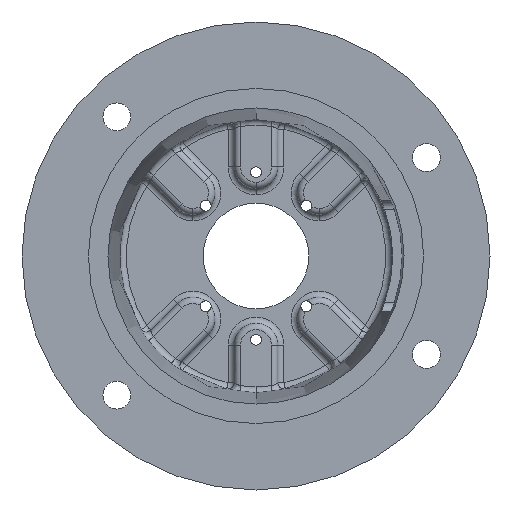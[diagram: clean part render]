
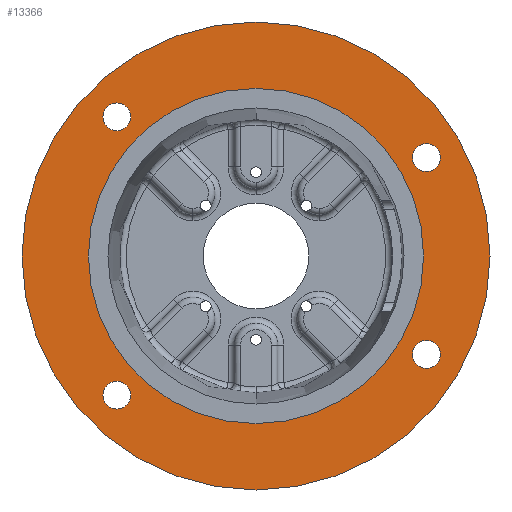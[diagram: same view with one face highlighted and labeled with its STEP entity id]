
A CAD part, front view. The second image highlights one B-rep face of the part: STEP entity #13366.
In plain terms, the highlighted planar face has unit normal (0, -1, 0).
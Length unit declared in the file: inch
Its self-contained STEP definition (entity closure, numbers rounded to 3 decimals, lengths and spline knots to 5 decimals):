
#154 = EDGE_CURVE ( 'NONE', #510, #7772, #4560, .T. ) ;
#190 = DIRECTION ( 'NONE',  ( 0., 0., 1. ) ) ;
#211 = CIRCLE ( 'NONE', #7244, 0.32812 ) ;
#288 = AXIS2_PLACEMENT_3D ( 'NONE', #9600, #3131, #10669 ) ;
#399 = EDGE_CURVE ( 'NONE', #1030, #6710, #3201, .T. ) ;
#510 = VERTEX_POINT ( 'NONE', #3135 ) ;
#594 = DIRECTION ( 'NONE',  ( 0., 0., -1. ) ) ;
#611 = DIRECTION ( 'NONE',  ( 0., -1., 0. ) ) ;
#644 = CARTESIAN_POINT ( 'NONE',  ( 0., 0., 0. ) ) ;
#1030 = VERTEX_POINT ( 'NONE', #1334 ) ;
#1334 = CARTESIAN_POINT ( 'NONE',  ( 0., 0., -3.9385 ) ) ;
#1519 = EDGE_LOOP ( 'NONE', ( #5251, #4275 ) ) ;
#1605 = FACE_BOUND ( 'NONE', #4106, .T. ) ;
#1763 = CIRCLE ( 'NONE', #13353, 0.32812 ) ;
#1845 = ORIENTED_EDGE ( 'NONE', *, *, #154, .F. ) ;
#2109 = EDGE_CURVE ( 'NONE', #7772, #510, #2704, .T. ) ;
#2151 = AXIS2_PLACEMENT_3D ( 'NONE', #12814, #6431, #13893 ) ;
#2222 = VERTEX_POINT ( 'NONE', #12426 ) ;
#2357 = CARTESIAN_POINT ( 'NONE',  ( 0., 0., 5.5 ) ) ;
#2572 = EDGE_LOOP ( 'NONE', ( #12792, #3514 ) ) ;
#2687 = CIRCLE ( 'NONE', #3776, 0.32812 ) ;
#2704 = CIRCLE ( 'NONE', #13082, 0.32812 ) ;
#2916 = CARTESIAN_POINT ( 'NONE',  ( -3.27037, 0., -3.59849 ) ) ;
#3131 = DIRECTION ( 'NONE',  ( 0., -1., 0. ) ) ;
#3135 = CARTESIAN_POINT ( 'NONE',  ( 4.00537, 0., 2.64062 ) ) ;
#3201 = CIRCLE ( 'NONE', #4665, 3.9385 ) ;
#3254 = CIRCLE ( 'NONE', #13927, 5.5 ) ;
#3265 = CIRCLE ( 'NONE', #9024, 0.32812 ) ;
#3342 = DIRECTION ( 'NONE',  ( 0., -1., 0. ) ) ;
#3439 = CARTESIAN_POINT ( 'NONE',  ( 0., 0., 0. ) ) ;
#3514 = ORIENTED_EDGE ( 'NONE', *, *, #4954, .F. ) ;
#3597 = DIRECTION ( 'NONE',  ( 0., -1., 0. ) ) ;
#3682 = CIRCLE ( 'NONE', #288, 3.9385 ) ;
#3776 = AXIS2_PLACEMENT_3D ( 'NONE', #9840, #9801, #9752 ) ;
#3880 = VERTEX_POINT ( 'NONE', #9004 ) ;
#4106 = EDGE_LOOP ( 'NONE', ( #10724, #1845 ) ) ;
#4108 = CARTESIAN_POINT ( 'NONE',  ( -3.27037, 0., -3.27037 ) ) ;
#4176 = FACE_BOUND ( 'NONE', #13281, .T. ) ;
#4275 = ORIENTED_EDGE ( 'NONE', *, *, #9009, .F. ) ;
#4467 = EDGE_CURVE ( 'NONE', #4871, #9307, #2687, .T. ) ;
#4524 = DIRECTION ( 'NONE',  ( 0., 0., -1. ) ) ;
#4560 = CIRCLE ( 'NONE', #7805, 0.32812 ) ;
#4597 = CARTESIAN_POINT ( 'NONE',  ( -3.27037, 0., -2.94224 ) ) ;
#4665 = AXIS2_PLACEMENT_3D ( 'NONE', #644, #611, #594 ) ;
#4871 = VERTEX_POINT ( 'NONE', #9408 ) ;
#4954 = EDGE_CURVE ( 'NONE', #6710, #1030, #3682, .T. ) ;
#5130 = VERTEX_POINT ( 'NONE', #2357 ) ;
#5185 = DIRECTION ( 'NONE',  ( 0., 0., -1. ) ) ;
#5251 = ORIENTED_EDGE ( 'NONE', *, *, #13617, .F. ) ;
#5292 = VERTEX_POINT ( 'NONE', #6878 ) ;
#5375 = ORIENTED_EDGE ( 'NONE', *, *, #10970, .T. ) ;
#5442 = ORIENTED_EDGE ( 'NONE', *, *, #12026, .F. ) ;
#5455 = CARTESIAN_POINT ( 'NONE',  ( 4.00537, 0., 2.3125 ) ) ;
#5566 = DIRECTION ( 'NONE',  ( 0., -1., 0. ) ) ;
#5965 = ORIENTED_EDGE ( 'NONE', *, *, #10192, .F. ) ;
#6028 = CARTESIAN_POINT ( 'NONE',  ( -3.27037, 0., 3.27037 ) ) ;
#6431 = DIRECTION ( 'NONE',  ( 0., -1., 0. ) ) ;
#6524 = DIRECTION ( 'NONE',  ( 0., -1., 0. ) ) ;
#6659 = PLANE ( 'NONE',  #13627 ) ;
#6710 = VERTEX_POINT ( 'NONE', #11365 ) ;
#6816 = EDGE_CURVE ( 'NONE', #9307, #4871, #10865, .T. ) ;
#6878 = CARTESIAN_POINT ( 'NONE',  ( 0., 0., -5.5 ) ) ;
#7027 = FACE_BOUND ( 'NONE', #7130, .T. ) ;
#7118 = DIRECTION ( 'NONE',  ( 0., 0., -1. ) ) ;
#7130 = EDGE_LOOP ( 'NONE', ( #5442, #5965 ) ) ;
#7244 = AXIS2_PLACEMENT_3D ( 'NONE', #6028, #13500, #7118 ) ;
#7604 = CARTESIAN_POINT ( 'NONE',  ( 4.00537, 0., 1.98437 ) ) ;
#7772 = VERTEX_POINT ( 'NONE', #7604 ) ;
#7805 = AXIS2_PLACEMENT_3D ( 'NONE', #5455, #6524, #8961 ) ;
#8314 = ORIENTED_EDGE ( 'NONE', *, *, #12207, .T. ) ;
#8573 = CIRCLE ( 'NONE', #10498, 0.32812 ) ;
#8961 = DIRECTION ( 'NONE',  ( 0., 0., -1. ) ) ;
#9004 = CARTESIAN_POINT ( 'NONE',  ( -3.27037, 0., 2.94224 ) ) ;
#9009 = EDGE_CURVE ( 'NONE', #2222, #3880, #211, .T. ) ;
#9024 = AXIS2_PLACEMENT_3D ( 'NONE', #4108, #11589, #5185 ) ;
#9084 = VERTEX_POINT ( 'NONE', #2916 ) ;
#9307 = VERTEX_POINT ( 'NONE', #10886 ) ;
#9408 = CARTESIAN_POINT ( 'NONE',  ( 4.00537, 0., -1.98438 ) ) ;
#9514 = AXIS2_PLACEMENT_3D ( 'NONE', #9804, #3342, #10863 ) ;
#9572 = FACE_OUTER_BOUND ( 'NONE', #11954, .T. ) ;
#9600 = CARTESIAN_POINT ( 'NONE',  ( 0., 0., 0. ) ) ;
#9740 = VERTEX_POINT ( 'NONE', #4597 ) ;
#9752 = DIRECTION ( 'NONE',  ( 0., 0., -1. ) ) ;
#9790 = ORIENTED_EDGE ( 'NONE', *, *, #6816, .F. ) ;
#9801 = DIRECTION ( 'NONE',  ( 0., -1., 0. ) ) ;
#9804 = CARTESIAN_POINT ( 'NONE',  ( 0., 0., 0. ) ) ;
#9840 = CARTESIAN_POINT ( 'NONE',  ( 4.00537, 0., -2.3125 ) ) ;
#10046 = CARTESIAN_POINT ( 'NONE',  ( -3.27037, 0., -3.27037 ) ) ;
#10088 = CIRCLE ( 'NONE', #9514, 5.5 ) ;
#10192 = EDGE_CURVE ( 'NONE', #9740, #9084, #3265, .T. ) ;
#10498 = AXIS2_PLACEMENT_3D ( 'NONE', #10046, #3597, #11101 ) ;
#10669 = DIRECTION ( 'NONE',  ( 0., 0., -1. ) ) ;
#10674 = CARTESIAN_POINT ( 'NONE',  ( 4.00537, 0., 2.3125 ) ) ;
#10681 = DIRECTION ( 'NONE',  ( 0., -1., 0. ) ) ;
#10684 = DIRECTION ( 'NONE',  ( 0., 0., -1. ) ) ;
#10724 = ORIENTED_EDGE ( 'NONE', *, *, #2109, .F. ) ;
#10863 = DIRECTION ( 'NONE',  ( 0., 0., -1. ) ) ;
#10865 = CIRCLE ( 'NONE', #2151, 0.32812 ) ;
#10886 = CARTESIAN_POINT ( 'NONE',  ( 4.00537, 0., -2.64063 ) ) ;
#10952 = DIRECTION ( 'NONE',  ( 0., -1., 0. ) ) ;
#10954 = DIRECTION ( 'NONE',  ( 0., 1., 0. ) ) ;
#10970 = EDGE_CURVE ( 'NONE', #5130, #5292, #3254, .T. ) ;
#11101 = DIRECTION ( 'NONE',  ( 0., 0., -1. ) ) ;
#11365 = CARTESIAN_POINT ( 'NONE',  ( 0., 0., 3.9385 ) ) ;
#11589 = DIRECTION ( 'NONE',  ( 0., -1., 0. ) ) ;
#11954 = EDGE_LOOP ( 'NONE', ( #8314, #5375 ) ) ;
#11966 = CARTESIAN_POINT ( 'NONE',  ( -3.27037, 0., 3.27037 ) ) ;
#12002 = CARTESIAN_POINT ( 'NONE',  ( -5.5, 0., 0. ) ) ;
#12026 = EDGE_CURVE ( 'NONE', #9084, #9740, #8573, .T. ) ;
#12207 = EDGE_CURVE ( 'NONE', #5292, #5130, #10088, .T. ) ;
#12376 = FACE_BOUND ( 'NONE', #2572, .T. ) ;
#12426 = CARTESIAN_POINT ( 'NONE',  ( -3.27037, 0., 3.59849 ) ) ;
#12689 = FACE_BOUND ( 'NONE', #1519, .T. ) ;
#12763 = ORIENTED_EDGE ( 'NONE', *, *, #4467, .F. ) ;
#12792 = ORIENTED_EDGE ( 'NONE', *, *, #399, .F. ) ;
#12814 = CARTESIAN_POINT ( 'NONE',  ( 4.00537, 0., -2.3125 ) ) ;
#13014 = DIRECTION ( 'NONE',  ( 0., 0., -1. ) ) ;
#13082 = AXIS2_PLACEMENT_3D ( 'NONE', #10674, #10681, #10684 ) ;
#13281 = EDGE_LOOP ( 'NONE', ( #9790, #12763 ) ) ;
#13353 = AXIS2_PLACEMENT_3D ( 'NONE', #11966, #5566, #13014 ) ;
#13366 = ADVANCED_FACE ( 'NONE', ( #1605, #4176, #7027, #12689, #12376, #9572 ), #6659, .F. ) ;
#13500 = DIRECTION ( 'NONE',  ( 0., -1., 0. ) ) ;
#13617 = EDGE_CURVE ( 'NONE', #3880, #2222, #1763, .T. ) ;
#13627 = AXIS2_PLACEMENT_3D ( 'NONE', #12002, #10954, #190 ) ;
#13893 = DIRECTION ( 'NONE',  ( 0., 0., -1. ) ) ;
#13927 = AXIS2_PLACEMENT_3D ( 'NONE', #3439, #10952, #4524 ) ;
